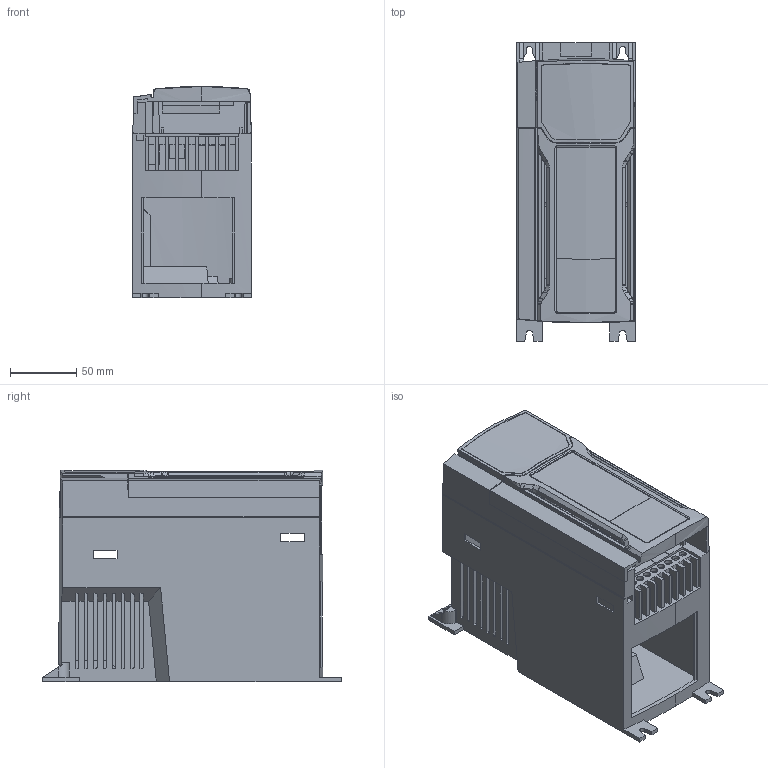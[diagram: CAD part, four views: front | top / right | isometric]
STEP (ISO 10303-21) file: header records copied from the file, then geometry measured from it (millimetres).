
FILE_DESCRIPTION (( 'STEP AP214' ), '1' );
FILE_NAME ('FDD303X_XXXXX.stp', '2022-01-11T17:51:30', ( 'Windows-Benutzer' ), ( '' ), 'SwSTEP 2.0', 'SolidWorks 2020', '' );
FILE_SCHEMA (( 'AUTOMOTIVE_DESIGN' ));
Length unit declared in the file: millimetre
Products named in the file (1): FDD303X_XXXXX
Bounding box: 90 x 226.4 x 160 mm (x, y, z)
Volume: 451173.2 mm3; surface area: 304769.1 mm2
Topology: 1 solids, 1 shells, 807 faces, 2504 edges, 1634 vertices
Faces by surface type: plane 566, cylinder 148, bspline 81, cone 12
Entity records: 40345 total; most frequent: CARTESIAN_POINT 10605, ORIENTED_EDGE 5008, DIRECTION 3786, EDGE_CURVE 2504, VECTOR 1780, LINE 1780, VERTEX_POINT 1634, AXIS2_PLACEMENT_3D 1003
